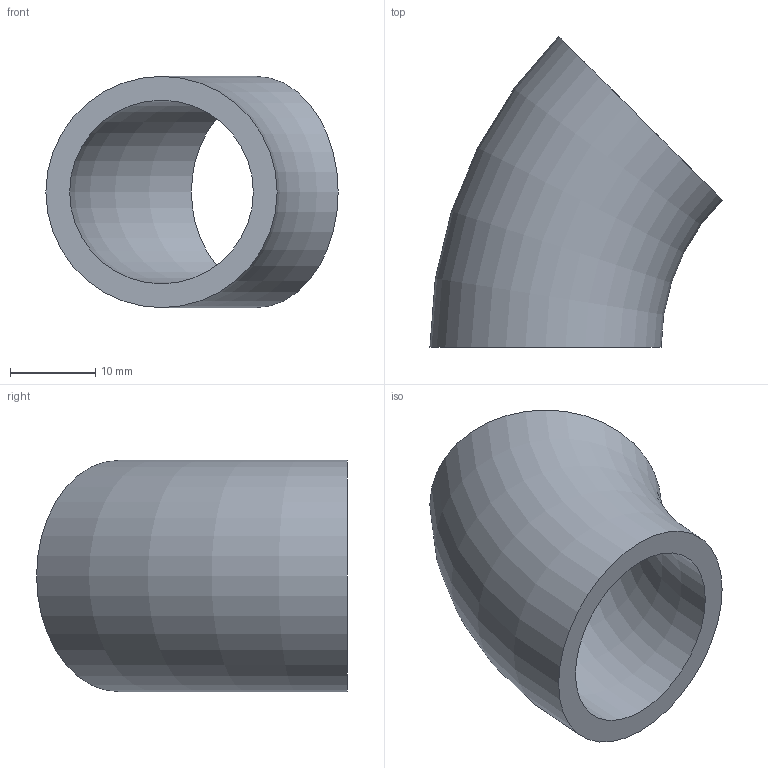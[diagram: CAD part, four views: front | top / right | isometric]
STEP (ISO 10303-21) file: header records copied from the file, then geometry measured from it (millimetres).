
FILE_DESCRIPTION(/* description */ (''),/* implementation_level */ '2;1');
FILE_NAME(/* name */ 'C:\Users\D\Documents\Inventor\HP\JIS\配管\エルボ ロング 45°\SGP\Elbow45-long-20A-SGP.stp',/* time_stamp */ '2022-06-08T16:59:36+09:00',/* author */ ('D'),/* organization */ (''),/* preprocessor_version */ 'ST-DEVELOPER v18',/* originating_system */ 'Autodesk Inventor 2020',/* authorisation */ '');
FILE_SCHEMA (('AUTOMOTIVE_DESIGN { 1 0 10303 214 3 1 1 }'));
Length unit declared in the file: millimetre
Products named in the file (1): Elbow-long-90-15A-SGP
Bounding box: 34.38 x 36.56 x 27.2 mm (x, y, z)
Volume: 6422.6 mm3; surface area: 5016.9 mm2
Topology: 1 solids, 1 shells, 4 faces, 10 edges, 8 vertices
Faces by surface type: torus 2, plane 2
Entity records: 181 total; most frequent: DIRECTION 30, CARTESIAN_POINT 23, ORIENTED_EDGE 20, AXIS2_PLACEMENT_3D 15, CIRCLE 10, EDGE_CURVE 10, VERTEX_POINT 8, EDGE_LOOP 6
